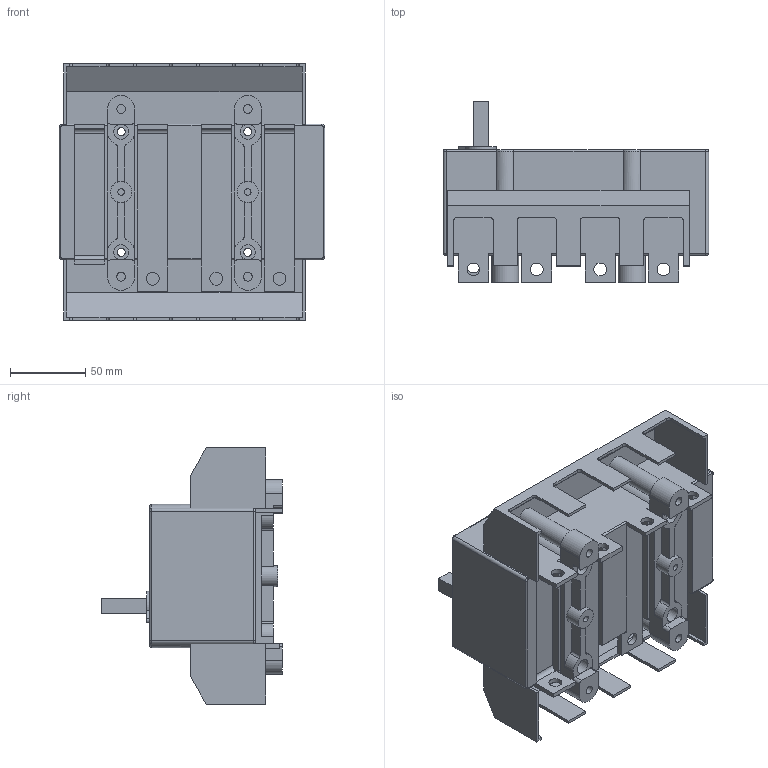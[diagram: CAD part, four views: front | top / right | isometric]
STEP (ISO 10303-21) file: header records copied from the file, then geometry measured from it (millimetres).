
FILE_DESCRIPTION(/* description */ (''),/* implementation_level */ '2;1');
FILE_NAME(/* name */ 'RA250 P3 NA z oslona zaciskow.stp',/* time_stamp */ '2021-08-18T08:02:22+02:00',/* author */ (''),/* organization */ (''),/* preprocessor_version */ 'ST-DEVELOPER v18.1',/* originating_system */ 'SIEMENS PLM Software NX 1965',/* authorisation */ '');
FILE_SCHEMA (('AUTOMOTIVE_DESIGN { 1 0 10303 214 3 1 1 1 }'));
Length unit declared in the file: millimetre
Products named in the file (1): RA250 P3 NA z oslona zaciskow_stp
Bounding box: 176 x 120 x 169.8 mm (x, y, z)
Volume: 1205554.1 mm3; surface area: 159386.5 mm2
Topology: 1 solids, 1 shells, 319 faces, 914 edges, 595 vertices
Faces by surface type: plane 179, cylinder 128, torus 7, bspline 5
Full cylindrical faces by diameter (mm): 4.3 x2, 5.3 x4, 5.8 x4, 8.5 x8, 10 x12, 13 x4, 14 x2
Entity records: 10284 total; most frequent: CARTESIAN_POINT 1906, DIRECTION 1753, ORIENTED_EDGE 1710, EDGE_CURVE 855, AXIS2_PLACEMENT_3D 599, VERTEX_POINT 572, LINE 555, VECTOR 555
